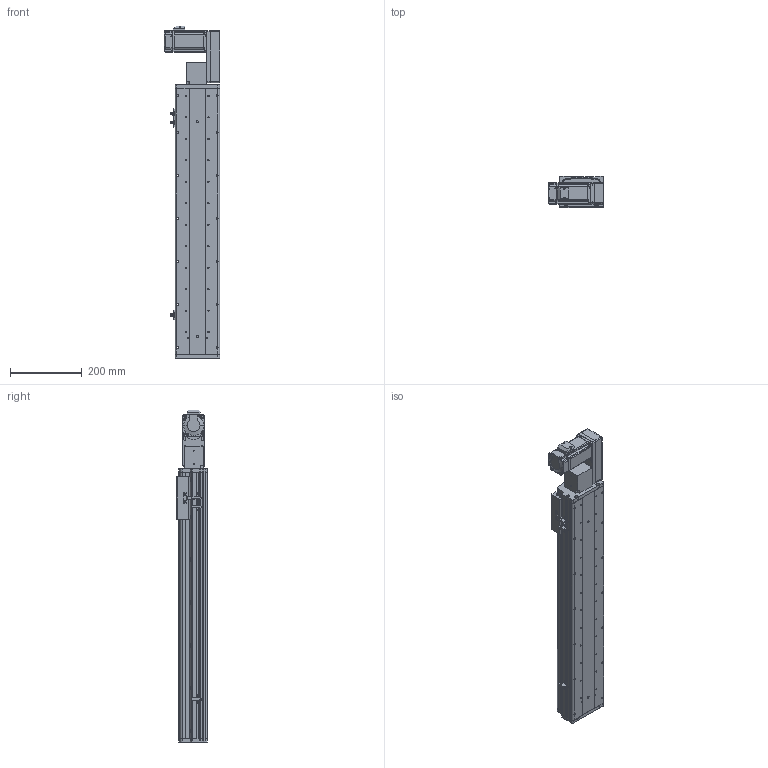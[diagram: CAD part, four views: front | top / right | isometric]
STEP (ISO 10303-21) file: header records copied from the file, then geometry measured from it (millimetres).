
FILE_DESCRIPTION (( 'STEP AP214' ), '1' );
FILE_NAME ('KSD125B-S550-MLB-CM.STEP', '2017-10-21T01:39:15', ( '微软用户' ), ( '微软中国' ), 'SwSTEP 2.0', 'SolidWorks 2014', '' );
FILE_SCHEMA (( 'AUTOMOTIVE_DESIGN' ));
Length unit declared in the file: millimetre
Products named in the file (17): 125模组550行程同步带-底板; KSD125模组同步带-防撞垫2; 覜茼え68遵圉猾敕; U倰嫖萇假蚾璃; U倰嫖萇EEㄜSX672; KSD125模组同步带-防撞垫1; 前端板-125宽模组同步带; 125模组同步带-尾端板1; KSD125模组同步带-滑动座1; KSD125B-S550-MLB-CM; 悵誘欶奻狟殏; HTPA30S3M150_A_H6_a佪裝蚚; HTPA30S3M150_A_H6_a萇儂蚚; 100宽马达安装板连板上下折丝杆同步带; 100宽马达安装板同步带左; MHMD042G1CA_2_03; KSD125模组550行程同步带-防尘盖
Assembly tree (20 placements, depth 2):
  KSD125B-S550-MLB-CM
    KSD125模组同步带-滑动座1
    125模组同步带-尾端板1
    前端板-125宽模组同步带
    KSD125模组同步带-防撞垫1
    U倰嫖萇EEㄜSX672  x3
    U倰嫖萇假蚾璃  x3
    覜茼え68遵圉猾敕
    KSD125模组同步带-防撞垫2
    125模组550行程同步带-底板
    KSD125模组550行程同步带-防尘盖
    MHMD042G1CA_2_03
    100宽马达安装板同步带左
    100宽马达安装板连板上下折丝杆同步带
    HTPA30S3M150_A_H6_a萇儂蚚
    HTPA30S3M150_A_H6_a佪裝蚚
    悵誘欶奻狟殏
Bounding box: 155 x 86 x 928 mm (x, y, z)
Volume: 2723389.8 mm3; surface area: 942662.4 mm2
Topology: 19 solids, 22 shells, 2253 faces, 6523 edges, 4310 vertices
Faces by surface type: cylinder 1404, plane 722, cone 105, bspline 22
Entity records: 79901 total; most frequent: CARTESIAN_POINT 15801, DIRECTION 12428, ORIENTED_EDGE 11566, EDGE_CURVE 5861, AXIS2_PLACEMENT_3D 4797, VERTEX_POINT 3902, VECTOR 2834, LINE 2834
